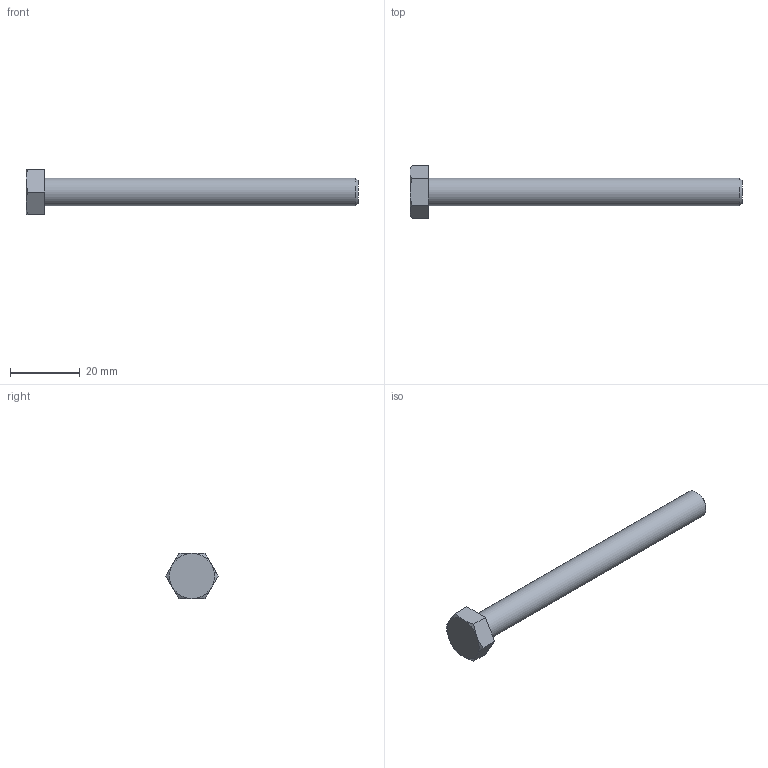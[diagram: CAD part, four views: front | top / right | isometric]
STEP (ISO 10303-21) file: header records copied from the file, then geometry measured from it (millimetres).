
FILE_DESCRIPTION (( 'STEP AP203' ), '1' );
FILE_NAME ('Vis tête hexagonale DIN EN 24015 - M8 x 80.STEP', '2026-06-24T07:29:48', ( '' ), ( '' ), 'SwSTEP 2.0', 'SolidWorks 2024', '' );
FILE_SCHEMA (( 'CONFIG_CONTROL_DESIGN' ));
Length unit declared in the file: millimetre
Products named in the file (1): Vis tête hexagonale DIN EN 24015 - M8 x 80_DIN EN 24015 - M8 x 90 x 90-C
Bounding box: 95.3 x 15.01 x 13 mm (x, y, z)
Volume: 5291.6 mm3; surface area: 2775.7 mm2
Topology: 1 solids, 1 shells, 17 faces, 36 edges, 22 vertices
Faces by surface type: plane 9, cone 7, cylinder 1
Full cylindrical faces by diameter (mm): 8 x1
Entity records: 551 total; most frequent: CARTESIAN_POINT 140, ORIENTED_EDGE 66, DIRECTION 66, EDGE_CURVE 33, AXIS2_PLACEMENT_3D 27, VERTEX_POINT 21, EDGE_LOOP 20, FACE_OUTER_BOUND 18
